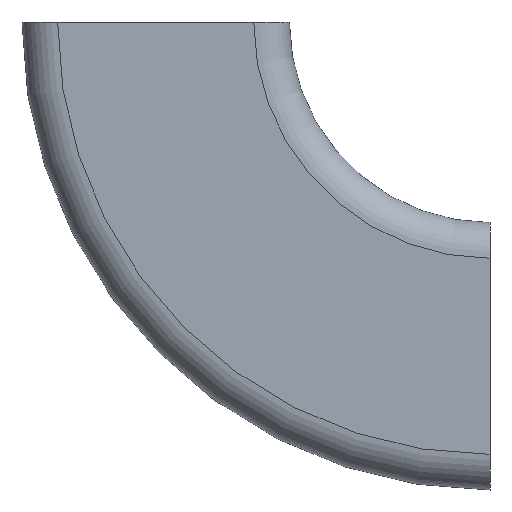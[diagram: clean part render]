
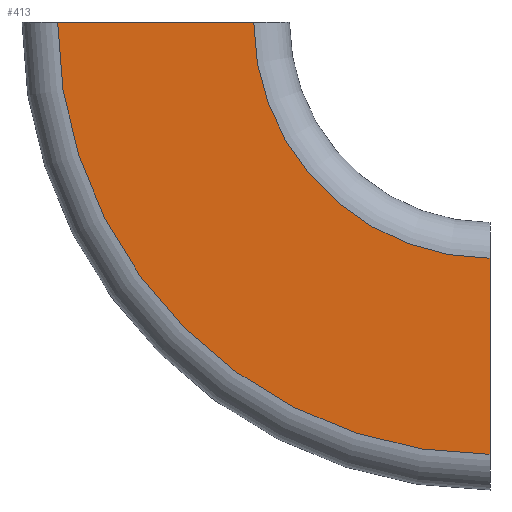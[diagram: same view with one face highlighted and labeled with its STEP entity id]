
A CAD part, left-side view. The second image highlights one B-rep face of the part: STEP entity #413.
In plain terms, the highlighted planar face has unit normal (-1, 0, 0).
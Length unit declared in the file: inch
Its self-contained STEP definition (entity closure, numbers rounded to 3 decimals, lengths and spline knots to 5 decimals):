
#345=CARTESIAN_POINT('',(-0.75,-1.875,-2.425));
#346=VERTEX_POINT('',#345);
#354=CARTESIAN_POINT('',(-0.75,0.55,0.0));
#355=VERTEX_POINT('',#354);
#356=CARTESIAN_POINT('',(-0.75,-1.875,0.0));
#357=DIRECTION('',(-1.0,0.0,0.0));
#358=DIRECTION('',(0.0,1.0,0.0));
#359=AXIS2_PLACEMENT_3D('',#356,#357,#358);
#360=CIRCLE('',#359,2.425);
#361=EDGE_CURVE('',#355,#346,#360,.T.);
#382=CARTESIAN_POINT('',(-0.75,0.,0.0));
#383=DIRECTION('',(-1.0,0.0,0.0));
#384=DIRECTION('',(0.0,0.0,1.0));
#385=AXIS2_PLACEMENT_3D('',#382,#383,#384);
#386=PLANE('',#385);
#387=CARTESIAN_POINT('',(-0.75,-1.875,-1.325));
#388=VERTEX_POINT('',#387);
#389=CARTESIAN_POINT('',(-0.75,-1.875,-2.425));
#390=DIRECTION('',(0.0,0.0,1.0));
#391=VECTOR('',#390,1.1);
#392=LINE('',#389,#391);
#393=EDGE_CURVE('',#346,#388,#392,.T.);
#394=ORIENTED_EDGE('',*,*,#393,.T.);
#395=CARTESIAN_POINT('',(-0.75,-0.55,0.0));
#396=VERTEX_POINT('',#395);
#397=CARTESIAN_POINT('',(-0.75,-1.875,0.0));
#398=DIRECTION('',(-1.0,0.0,0.0));
#399=DIRECTION('',(0.0,1.0,0.0));
#400=AXIS2_PLACEMENT_3D('',#397,#398,#399);
#401=CIRCLE('',#400,1.325);
#402=EDGE_CURVE('',#396,#388,#401,.T.);
#403=ORIENTED_EDGE('',*,*,#402,.F.);
#404=CARTESIAN_POINT('',(-0.75,0.55,0.0));
#405=DIRECTION('',(0.0,-1.0,0.0));
#406=VECTOR('',#405,1.1);
#407=LINE('',#404,#406);
#408=EDGE_CURVE('',#355,#396,#407,.T.);
#409=ORIENTED_EDGE('',*,*,#408,.F.);
#410=ORIENTED_EDGE('',*,*,#361,.T.);
#411=EDGE_LOOP('',(#394,#403,#409,#410));
#412=FACE_OUTER_BOUND('',#411,.T.);
#413=ADVANCED_FACE('',(#412),#386,.T.);
